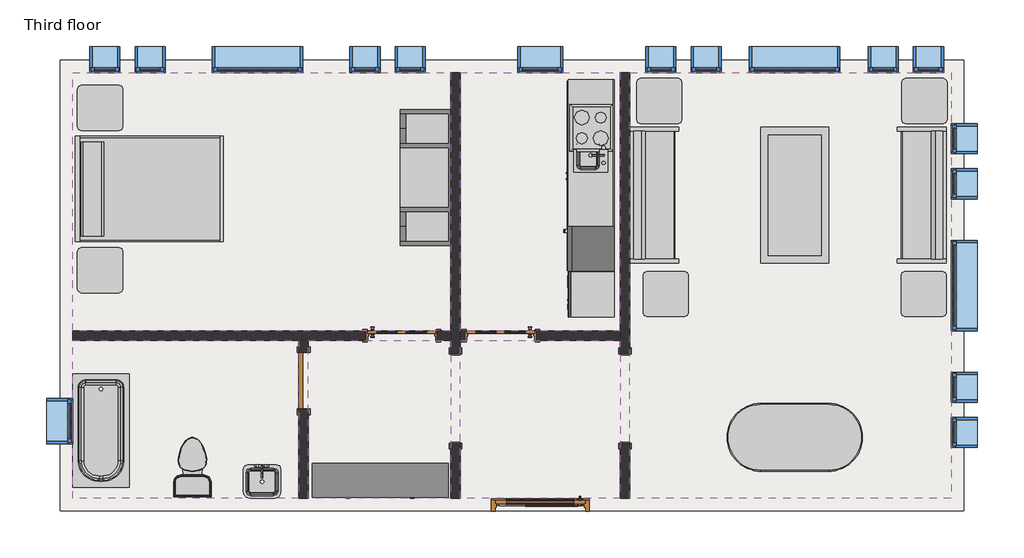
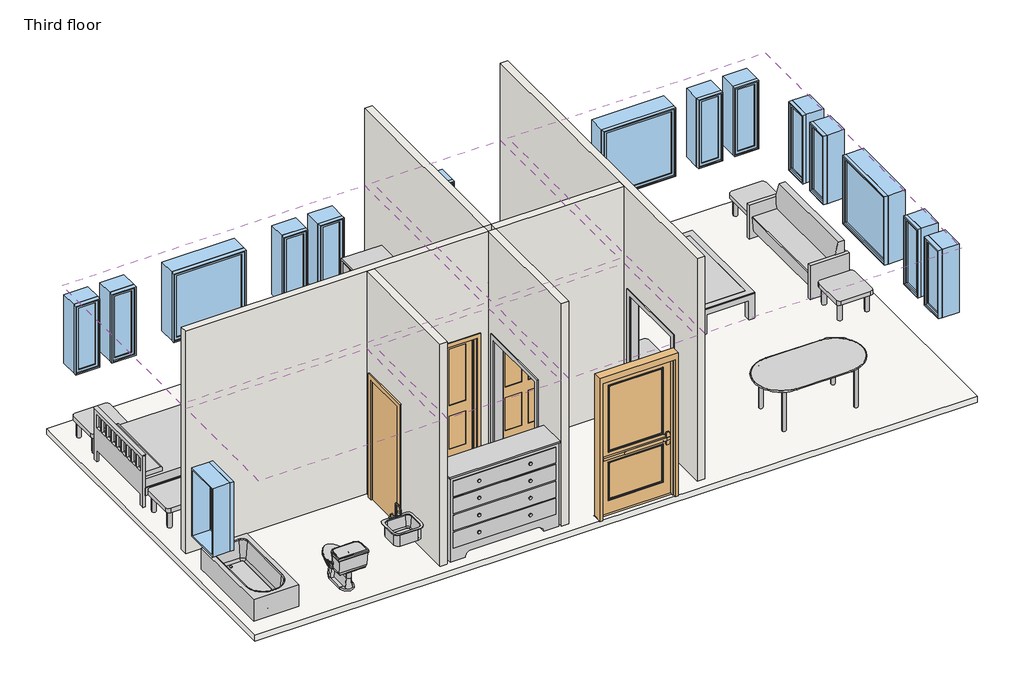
# One storey, incomplete: 17 windows, 14 furniture elements, 6 coverings, 6 proxies, 4 doors, 4 flow terminals, 4 walls, 1 slab.
"""IFC4 building model written with IfcOpenShell, lengths in millimetres."""

from ifc_helpers import new_model, si_unit, frame, origin, place, context, project, spatial, polyline, outline, extrude, faceted_brep, transform, mapped, element, save
from components import proxy_a6faaae8, proxy_45b28599, proxy_2d72b8be, proxy_f44482cc, proxy_d58c73d0, proxy_c523a7b7, door_734823c0, door_3a280f7b, door_48307b55, door_4d6c7550, flow_terminal_871c2e40, flow_terminal_62a433f7, toilet_domestic_3d_toilet_domestic_3d_f7549cf7, toilet_domestic_3d_toilet_domestic_3d_183bbd19, tub_rectangular_3d_tub_rectangular_3d_c56944d8, furniture_096e7f55, furniture_b11095bc, furniture_7c473f12, furniture_cf0b6580, furniture_a4ffab56, furniture_4aa42607, furniture_cd93a443, furniture_2c34a4f9, furniture_3a588284, furniture_1befe2a2, window_da97879f, window_d61ef850, window_60baf983, window_6eb97611

model = new_model("IFC4")

# Units and contexts
model_context = context("Model", 3, world=origin())
ifc_project = project(units=[si_unit("LENGTHUNIT", "METRE", prefix="MILLI")], contexts=[model_context])

# Site, building, storey
site = spatial("IfcSite", under=ifc_project)
building = spatial("IfcBuilding", under=site)
storey = spatial("IfcBuildingStorey", under=building, Name="Third floor", Elevation=6096.0)

# Proxies
placement = place(None, origin())
proxy_shape = proxy_a6faaae8(model_context)
element("IfcBuildingElementProxy", 1, Name="Cook Top-4 Unit2 : 22\" x 20\"", ObjectType="Cook Top-4 Unit2 : 22\" x 20\"", at=placement, inside=storey, context=model_context, shape_type="MappedRepresentation", body=[
    mapped(proxy_shape, transform((-9031.7273953, 6866.0370415, 6097.7), x_axis=(0.0, 1.0, 0.0), y_axis=(-1.0, 0.0, 0.0), z_axis=(0.0, 0.0, 1.0))),
])
proxy_2_shape = proxy_45b28599(model_context)
element("IfcBuildingElementProxy", 2, Name="Dishwasher : 24\" x 24\" x 34\"", ObjectType="Dishwasher : 24\" x 24\" x 34\"", at=placement, inside=storey, context=model_context, shape_type="MappedRepresentation", body=[
    mapped(proxy_2_shape, transform((-9291.8269601, 5000.45451, 6096.0), x_axis=(0.0, -1.0, 0.0), y_axis=(1.0, 0.0, 0.0), z_axis=(0.0, 0.0, 1.0))),
])
proxy_3_shape = proxy_2d72b8be(model_context)
element("IfcBuildingElementProxy", 3, Name="Kitchenette - Medium : 8'6\"", ObjectType="Kitchenette - Medium : 8'6\"", at=placement, inside=storey, context=model_context, shape_type="MappedRepresentation", body=[
    mapped(proxy_3_shape, transform((-8720.5773953, 6237.0747464, 6096.0), x_axis=(0.0, -1.0, 0.0), y_axis=(1.0, 0.0, 0.0), z_axis=(0.0, 0.0, 1.0))),
])
proxy_4_shape = proxy_f44482cc(model_context)
element("IfcBuildingElementProxy", 4, Name="Passage Opening-Cased : 48\" x 84\"", ObjectType="Passage Opening-Cased : 48\" x 84\"", at=placement, inside=storey, context=model_context, shape_type="MappedRepresentation", body=[
    mapped(proxy_4_shape, transform((-8577.1844712, 3224.0452741, 6096.0), x_axis=(0.0, 1.0, 0.0), y_axis=(-1.0, 0.0, 0.0), z_axis=(0.0, 0.0, 1.0))),
])
proxy_5_shape = proxy_d58c73d0(model_context)
element("IfcBuildingElementProxy", 5, Name="Passage Opening-Cased : 48\" x 84\"", ObjectType="Passage Opening-Cased : 48\" x 84\"", at=placement, inside=storey, context=model_context, shape_type="MappedRepresentation", body=[
    mapped(proxy_5_shape, transform((-10863.1844712, 3224.0452741, 6096.0), x_axis=(0.0, 1.0, 0.0), y_axis=(-1.0, 0.0, 0.0), z_axis=(0.0, 0.0, 1.0))),
])
proxy_6_shape = proxy_c523a7b7(model_context)
element("IfcBuildingElementProxy", 6, Name="Refrigerator : 24\" x 25\" LH", ObjectType="Refrigerator : 24\" x 25\" LH", at=placement, inside=storey, context=model_context, shape_type="MappedRepresentation", body=[
    mapped(proxy_6_shape, transform((-9020.2263668, 5234.0870415, 6096.0), x_axis=(0.0, -1.0, 0.0), y_axis=(1.0, 0.0, 0.0), z_axis=(0.0, 0.0, 1.0))),
])

# Coverings
element("IfcCovering", 7, ObjectType="GWB on Mtl. Stud", at=placement, inside=storey, context=model_context, shape_type="SweptSolid", body=[
    extrude(outline(polyline([(-16020.9719712, 7611.6441174), (-10926.6844712, 7611.6441174), (-10926.6844712, 4128.6691174), (-16020.9719712, 4128.6691174), (-16020.9719712, 7611.6441174)])), frame((0.0, 0.0, 8686.8), z_axis=(0.0, 0.0, 1.0), x_axis=(1.0, 0.0, 0.0)), (0.0, 0.0, 1.0), 107.95),
])
element("IfcCovering", 8, ObjectType="GWB on Mtl. Stud", at=placement, inside=storey, context=model_context, shape_type="SweptSolid", body=[
    extrude(outline(polyline([(-10799.6844712, 4128.6691174), (-10799.6844712, 7611.6441174), (-8640.6844712, 7611.6441174), (-8640.6844712, 4128.6691174), (-10799.6844712, 4128.6691174)])), frame((0.0, 0.0, 8686.8), z_axis=(0.0, 0.0, 1.0), x_axis=(1.0, 0.0, 0.0)), (0.0, 0.0, 1.0), 107.95),
])
element("IfcCovering", 9, ObjectType="GWB on Mtl. Stud", at=placement, inside=storey, context=model_context, shape_type="SweptSolid", body=[
    extrude(outline(polyline([(-8513.6844712, 1868.0691174), (-8513.6844712, 7611.6441174), (-4181.3969712, 7611.6441174), (-4181.3969712, 1868.0691174), (-8513.6844712, 1868.0691174)])), frame((0.0, 0.0, 8686.8), z_axis=(0.0, 0.0, 1.0), x_axis=(1.0, 0.0, 0.0)), (0.0, 0.0, 1.0), 107.95),
])
element("IfcCovering", 10, ObjectType="GWB on Mtl. Stud", at=placement, inside=storey, context=model_context, shape_type="SweptSolid", body=[
    extrude(outline(polyline([(-8640.6844712, 1868.0691174), (-10799.6844712, 1868.0691174), (-10799.6844712, 4001.6691174), (-8640.6844712, 4001.6691174), (-8640.6844712, 1868.0691174)])), frame((0.0, 0.0, 8686.8), z_axis=(0.0, 0.0, 1.0), x_axis=(1.0, 0.0, 0.0)), (0.0, 0.0, 1.0), 107.95),
])
element("IfcCovering", 11, ObjectType="GWB on Mtl. Stud", at=placement, inside=storey, context=model_context, shape_type="SweptSolid", body=[
    extrude(outline(polyline([(-10926.6844712, 1868.0691174), (-12845.9719712, 1868.0691174), (-12845.9719712, 4001.6691174), (-10926.6844712, 4001.6691174), (-10926.6844712, 1868.0691174)])), frame((0.0, 0.0, 8686.8), z_axis=(0.0, 0.0, 1.0), x_axis=(1.0, 0.0, 0.0)), (0.0, 0.0, 1.0), 107.95),
])
element("IfcCovering", 12, ObjectType="GWB on Mtl. Stud", at=placement, inside=storey, context=model_context, shape_type="SweptSolid", body=[
    extrude(outline(polyline([(-12972.9719712, 4001.6691174), (-12972.9719712, 1868.0691174), (-16020.9719712, 1868.0691174), (-16020.9719712, 4001.6691174), (-12972.9719712, 4001.6691174)])), frame((0.0, 0.0, 8686.8), z_axis=(0.0, 0.0, 1.0), x_axis=(1.0, 0.0, 0.0)), (0.0, 0.0, 1.0), 107.95),
])

# Doors
door_shape = door_734823c0(model_context)
element("IfcDoor", 13, ObjectType="Door-Exterior-Single-Two_Lite : 48\" x 96\"", at=placement, inside=storey, context=model_context, shape_type="MappedRepresentation", body=[
    mapped(door_shape, transform((-9720.1844712, 1685.5066174, 6096.0), x_axis=(-1.0, 0.0, 0.0), y_axis=(0.0, -1.0, 0.0), z_axis=(0.0, 0.0, 1.0))),
])
door_2_shape = door_3a280f7b(model_context)
element("IfcDoor", 14, ObjectType="Door-Interior-Single-4_Panel-Wood : 36\" x 84\"", at=placement, inside=storey, context=model_context, shape_type="MappedRepresentation", body=[
    mapped(door_2_shape, transform((-10253.5844712, 4068.3441174, 6096.0), x_axis=(-1.0, 0.0, 0.0), y_axis=(0.0, -1.0, 0.0), z_axis=(0.0, 0.0, 1.0))),
])
door_3_shape = door_48307b55(model_context)
element("IfcDoor", 15, ObjectType="Door-Interior-Single-4_Panel-Wood : 36\" x 84\"", at=placement, inside=storey, context=model_context, shape_type="MappedRepresentation", body=[
    mapped(door_3_shape, transform((-11588.6719712, 4068.3441174, 6096.0), x_axis=(1.0, 0.0, 0.0), y_axis=(0.0, 1.0, 0.0), z_axis=(0.0, 0.0, 1.0))),
])
door_4_shape = door_4d6c7550(model_context)
element("IfcDoor", 16, ObjectType="Single-Flush : 30\" x 84\"", at=placement, inside=storey, context=model_context, shape_type="MappedRepresentation", body=[
    mapped(door_4_shape, transform((-12909.4719712, 3455.5691174, 6096.0), x_axis=(0.0, 1.0, 0.0), y_axis=(-1.0, 0.0, 0.0), z_axis=(0.0, 0.0, 1.0))),
])

# Flow terminals
flow_terminal_shape = flow_terminal_871c2e40(model_context)
element("IfcFlowTerminal", 17, ObjectType="Sink Kitchen-Island : 18\" x 18\"", at=placement, inside=storey, context=model_context, shape_type="MappedRepresentation", body=[
    mapped(flow_terminal_shape, transform((-9040.4227964, 6513.4262821, 6083.3), x_axis=(0.0, -1.0, 0.0), y_axis=(1.0, 0.0, 0.0), z_axis=(0.0, 0.0, 1.0))),
])
flow_terminal_2_shape = flow_terminal_62a433f7(model_context)
element("IfcFlowTerminal", 18, ObjectType="Sink Vanity-Square : 20\" x 18\"", at=placement, inside=storey, context=model_context, shape_type="MappedRepresentation", body=[
    mapped(flow_terminal_2_shape, transform((-13483.9612118, 2145.1237163, 6096.0), x_axis=(1.0, 0.0, 0.0), y_axis=(0.0, 1.0, 0.0), z_axis=(0.0, 0.0, 1.0))),
])
toilet_domestic_3d_toilet_domestic_3d_shape = toilet_domestic_3d_toilet_domestic_3d_f7549cf7(model_context)
toilet_domestic_3d_toilet_domestic_3d_2_shape = toilet_domestic_3d_toilet_domestic_3d_183bbd19(model_context)
element("IfcFlowTerminal", 19, ObjectType="Toilet-Domestic-3D : Toilet-Domestic-3D", at=placement, inside=storey, context=model_context, shape_type="MappedRepresentation", body=[
    mapped(toilet_domestic_3d_toilet_domestic_3d_shape, transform((-14408.0719712, 2388.7691174, 6096.0), x_axis=(-1.0, 0.0, 0.0), y_axis=(0.0, -1.0, 0.0), z_axis=(0.0, 0.0, 1.0))),
    mapped(toilet_domestic_3d_toilet_domestic_3d_2_shape, transform((-14408.0719712, 2388.7691174, 6096.0), x_axis=(-1.0, 0.0, 0.0), y_axis=(0.0, -1.0, 0.0), z_axis=(0.0, 0.0, 1.0))),
])
tub_rectangular_3d_tub_rectangular_3d_shape = tub_rectangular_3d_tub_rectangular_3d_c56944d8(model_context)
element("IfcFlowTerminal", 20, ObjectType="Tub-Rectangular-3D : Tub-Rectangular-3D", at=placement, inside=storey, context=model_context, shape_type="MappedRepresentation", body=[
    mapped(tub_rectangular_3d_tub_rectangular_3d_shape, transform((-16197.1844712, 2435.4536487, 6096.0), x_axis=(0.0, -1.0, 0.0), y_axis=(1.0, 0.0, 0.0), z_axis=(0.0, 0.0, 1.0))),
])

# Furniture
furniture_shape = furniture_096e7f55(model_context)
element("IfcFurniture", 21, ObjectType="Bed-Shaker : Double 56\" x 78\"", at=placement, inside=storey, context=model_context, shape_type="MappedRepresentation", body=[
    mapped(furniture_shape, transform((-15975.8112951, 6061.1004868, 6096.0), x_axis=(0.0, 1.0, 0.0), y_axis=(-1.0, 0.0, 0.0), z_axis=(0.0, 0.0, 1.0))),
])
furniture_2_shape = furniture_b11095bc(model_context)
element("IfcFurniture", 22, ObjectType="Counter Top w Sink Hole : 24\" Depth", at=placement, inside=storey, context=model_context, shape_type="MappedRepresentation", body=[
    mapped(furniture_2_shape, transform((-8720.5773953, 6313.2747464, 6083.3), x_axis=(0.0, -1.0, 0.0), y_axis=(1.0, 0.0, 0.0), z_axis=(0.0, 0.0, 1.0))),
])
furniture_3_shape = furniture_7c473f12(model_context)
element("IfcFurniture", 23, ObjectType="Dresser : 72\" x 60\" x 18\"", at=placement, inside=storey, context=model_context, shape_type="MappedRepresentation", body=[
    mapped(furniture_3_shape, transform((-11608.4037114, 2478.8820715, 6096.0), x_axis=(1.0, 0.0, 0.0), y_axis=(0.0, 1.0, 0.0), z_axis=(0.0, 0.0, 1.0))),
])
furniture_4_shape = furniture_cf0b6580(model_context)
element("IfcFurniture", 24, ObjectType="Entertainment Center : 72\" x 72\" x 24\"", at=placement, inside=storey, context=model_context, shape_type="MappedRepresentation", body=[
    mapped(furniture_4_shape, transform((-10825.0844712, 6196.8069525, 6096.0), x_axis=(0.0, -1.0, 0.0), y_axis=(1.0, 0.0, 0.0), z_axis=(0.0, 0.0, 1.0))),
])
furniture_5_shape = furniture_a4ffab56(model_context)
element("IfcFurniture", 25, ObjectType="Sofa : 72\"", at=placement, inside=storey, context=model_context, shape_type="MappedRepresentation", body=[
    mapped(furniture_5_shape, transform((-8037.3303728, 5888.6861256, 6096.0), x_axis=(0.0, 1.0, 0.0), y_axis=(-1.0, 0.0, 0.0), z_axis=(0.0, 0.0, 1.0))),
])
furniture_6_shape = furniture_4aa42607(model_context)
element("IfcFurniture", 26, ObjectType="Sofa : 72\"", at=placement, inside=storey, context=model_context, shape_type="MappedRepresentation", body=[
    mapped(furniture_6_shape, transform((-4722.8385696, 5888.6861256, 6096.0), x_axis=(0.0, 1.0, 0.0), y_axis=(-1.0, 0.0, 0.0), z_axis=(0.0, 0.0, 1.0))),
])
furniture_7_shape = furniture_cd93a443(model_context)
element("IfcFurniture", 27, ObjectType="Table-Coffee : 36\" x 72\" x 18\"", at=placement, inside=storey, context=model_context, shape_type="MappedRepresentation", body=[
    mapped(furniture_7_shape, transform((-6386.395549, 5977.3223841, 6096.0), x_axis=(0.0, -1.0, 0.0), y_axis=(1.0, 0.0, 0.0), z_axis=(0.0, 0.0, 1.0))),
])
furniture_8_shape = furniture_2c34a4f9(model_context)
element("IfcFurniture", 28, ObjectType="Table-Dining Oval : 36\" x 72\"", at=placement, inside=storey, context=model_context, shape_type="MappedRepresentation", body=[
    mapped(furniture_8_shape, transform((-5889.3647991, 3051.6674781, 6096.0), x_axis=(1.0, 0.0, 0.0), y_axis=(0.0, 1.0, 0.0), z_axis=(0.0, 0.0, 1.0))),
])
furniture_9_shape = furniture_3a588284(model_context)
element("IfcFurniture", 29, ObjectType="Table-End : 24\" x 24\"", at=placement, inside=storey, context=model_context, shape_type="MappedRepresentation", body=[
    mapped(furniture_9_shape, transform((-8424.0054177, 7076.6566174, 6096.0), x_axis=(1.0, 0.0, 0.0), y_axis=(0.0, 1.0, 0.0), z_axis=(0.0, 0.0, 1.0))),
])
element("IfcFurniture", 30, ObjectType="Table-End : 24\" x 24\"", at=placement, inside=storey, context=model_context, shape_type="MappedRepresentation", body=[
    mapped(furniture_9_shape, transform((-8338.5433691, 4473.0178252, 6096.0), x_axis=(1.0, 0.0, 0.0), y_axis=(0.0, 1.0, 0.0), z_axis=(0.0, 0.0, 1.0))),
])
element("IfcFurniture", 31, ObjectType="Table-End : 24\" x 24\"", at=placement, inside=storey, context=model_context, shape_type="MappedRepresentation", body=[
    mapped(furniture_9_shape, transform((-15961.2056015, 4795.4191174, 6096.0), x_axis=(1.0, 0.0, 0.0), y_axis=(0.0, 1.0, 0.0), z_axis=(0.0, 0.0, 1.0))),
])
furniture_10_shape = furniture_1befe2a2(model_context)
element("IfcFurniture", 32, ObjectType="Table-End : 24\" x 24\"", at=placement, inside=storey, context=model_context, shape_type="MappedRepresentation", body=[
    mapped(furniture_10_shape, transform((-4234.5635246, 7076.6566174, 6096.0), x_axis=(-1.0, 0.0, 0.0), y_axis=(0.0, -1.0, 0.0), z_axis=(0.0, 0.0, 1.0))),
])
element("IfcFurniture", 33, ObjectType="Table-End : 24\" x 24\"", at=placement, inside=storey, context=model_context, shape_type="MappedRepresentation", body=[
    mapped(furniture_10_shape, transform((-4243.8255733, 4473.0178252, 6096.0), x_axis=(-1.0, 0.0, 0.0), y_axis=(0.0, -1.0, 0.0), z_axis=(0.0, 0.0, 1.0))),
])
element("IfcFurniture", 34, ObjectType="Table-End : 24\" x 24\"", at=placement, inside=storey, context=model_context, shape_type="MappedRepresentation", body=[
    mapped(furniture_10_shape, transform((-15961.2056015, 7288.6818561, 6096.0), x_axis=(1.0, 0.0, 0.0), y_axis=(0.0, 1.0, 0.0), z_axis=(0.0, 0.0, 1.0))),
])

# Slab
element("IfcSlab", 35, ObjectType="LW Concrete on Metal Deck", at=placement, inside=storey, context=model_context, shape_type="SweptSolid", body=[
    extrude(outline(polyline([(-4016.2969712, 7776.7441174), (-4016.2969712, 1702.9691174), (-16186.0719712, 1702.9691174), (-16186.0719712, 7776.7441174), (-4016.2969712, 7776.7441174)])), frame((0.0, 0.0, 5991.225), z_axis=(0.0, 0.0, 1.0), x_axis=(1.0, 0.0, 0.0)), (0.0, 0.0, 1.0), 104.775),
])

# Walls
element("IfcWall", 36, ObjectType="Interior - 5\" Partition (2-hr)", at=placement, inside=storey, context=model_context, shape_type="Brep", body=[
    faceted_brep([(-8640.6844712, 7611.6441174, 6096.0), (-8640.6844712, 4128.6691174, 6096.0), (-8640.6844712, 4001.6691174, 6096.0), (-8640.6844712, 3825.4566174, 6096.0), (-8640.6844712, 3825.4566174, 8229.6), (-8640.6844712, 2606.2566174, 8229.6), (-8640.6844712, 2606.2566174, 6096.0), (-8640.6844712, 1868.0691174, 6096.0), (-8640.6844712, 1868.0691174, 10058.4), (-8640.6844712, 4001.6691174, 10058.4), (-8640.6844712, 4128.6691174, 10058.4), (-8640.6844712, 7611.6441174, 10058.4), (-8513.6844712, 3825.4566174, 8229.6), (-8513.6844712, 3825.4566174, 6096.0), (-8513.6844712, 7611.6441174, 6096.0), (-8513.6844712, 7611.6441174, 10058.4), (-8513.6844712, 1868.0691174, 10058.4), (-8513.6844712, 1868.0691174, 6096.0), (-8513.6844712, 2606.2566174, 6096.0), (-8513.6844712, 2606.2566174, 8229.6)], [[[0, 1, 2, 3, 4, 5, 6, 7, 8, 9, 10, 11]], [[12, 13, 14, 15, 16, 17, 18, 19]], [[18, 17, 7, 6]], [[14, 13, 3, 2, 1, 0]], [[11, 10, 9, 8, 16, 15]], [[6, 5, 19, 18]], [[4, 3, 13, 12]], [[5, 4, 12, 19]], [[0, 11, 15, 14]], [[8, 7, 17, 16]]]),
])
element("IfcWall", 37, ObjectType="Interior - 5\" Partition (2-hr)", at=placement, inside=storey, context=model_context, shape_type="SweptSolid", body=[
    extrude(outline(polyline([(2606.2566174, 8229.6), (2606.2566174, 6096.0), (1868.0691174, 6096.0), (1868.0691174, 10058.4), (4001.6691174, 10058.4), (4001.6691174, 9144.0), (4128.6691174, 9144.0), (4128.6691174, 10058.4), (7611.6441174, 10058.4), (7611.6441174, 6096.0), (4128.6691174, 6096.0), (4128.6691174, 7010.4), (4001.6691174, 7010.4), (4001.6691174, 6096.0), (3825.4566174, 6096.0), (3825.4566174, 8229.6), (2606.2566174, 8229.6)])), frame((-10926.6844712, 0.0, 0.0), z_axis=(1.0, 0.0, 0.0), x_axis=(0.0, 1.0, 0.0)), (0.0, 0.0, 1.0), 127.0),
])
element("IfcWall", 38, ObjectType="Interior - 5\" Partition (2-hr)", at=placement, inside=storey, context=model_context, shape_type="Brep", body=[
    faceted_brep([(-8640.6844712, 4001.6691174, 10058.4), (-10799.6844712, 4001.6691174, 10058.4), (-10799.6844712, 4001.6691174, 9144.0), (-10799.6844712, 4001.6691174, 7010.4), (-10799.6844712, 4001.6691174, 6096.0), (-10736.1844712, 4001.6691174, 6096.0), (-10736.1844712, 4001.6691174, 8255.0), (-9770.9844712, 4001.6691174, 8255.0), (-9770.9844712, 4001.6691174, 6096.0), (-8640.6844712, 4001.6691174, 6096.0), (-10799.6844712, 4128.6691174, 10058.4), (-8640.6844712, 4128.6691174, 10058.4), (-8640.6844712, 4128.6691174, 6096.0), (-9770.9844712, 4128.6691174, 6096.0), (-9770.9844712, 4128.6691174, 8255.0), (-10736.1844712, 4128.6691174, 8255.0), (-10736.1844712, 4128.6691174, 6096.0), (-10799.6844712, 4128.6691174, 6096.0), (-10799.6844712, 4128.6691174, 7010.4), (-10799.6844712, 4128.6691174, 9144.0)], [[[0, 1, 2, 3, 4, 5, 6, 7, 8, 9]], [[10, 11, 12, 13, 14, 15, 16, 17, 18, 19]], [[12, 9, 8, 13]], [[4, 17, 16, 5]], [[0, 11, 10, 1]], [[17, 4, 3, 2, 1, 10, 19, 18]], [[6, 5, 16, 15]], [[7, 6, 15, 14]], [[8, 7, 14, 13]], [[9, 12, 11, 0]]]),
    faceted_brep([(-10926.6844712, 4001.6691174, 10058.4), (-12845.9719712, 4001.6691174, 10058.4), (-12972.9719712, 4001.6691174, 10058.4), (-16020.9719712, 4001.6691174, 10058.4), (-16020.9719712, 4001.6691174, 6096.0), (-12972.9719712, 4001.6691174, 6096.0), (-12845.9719712, 4001.6691174, 6096.0), (-12071.2719712, 4001.6691174, 6096.0), (-12071.2719712, 4001.6691174, 8255.0), (-11106.0719712, 4001.6691174, 8255.0), (-11106.0719712, 4001.6691174, 6096.0), (-10926.6844712, 4001.6691174, 6096.0), (-10926.6844712, 4001.6691174, 7010.4), (-10926.6844712, 4001.6691174, 9144.0), (-16020.9719712, 4128.6691174, 10058.4), (-10926.6844712, 4128.6691174, 10058.4), (-10926.6844712, 4128.6691174, 9144.0), (-10926.6844712, 4128.6691174, 7010.4), (-10926.6844712, 4128.6691174, 6096.0), (-11106.0719712, 4128.6691174, 6096.0), (-11106.0719712, 4128.6691174, 8255.0), (-12071.2719712, 4128.6691174, 8255.0), (-12071.2719712, 4128.6691174, 6096.0), (-16020.9719712, 4128.6691174, 6096.0)], [[[0, 1, 2, 3, 4, 5, 6, 7, 8, 9, 10, 11, 12, 13]], [[14, 15, 16, 17, 18, 19, 20, 21, 22, 23]], [[18, 11, 10, 19]], [[7, 6, 5, 4, 23, 22]], [[3, 2, 1, 0, 15, 14]], [[11, 18, 17, 16, 15, 0, 13, 12]], [[9, 20, 19, 10]], [[20, 9, 8, 21]], [[21, 8, 7, 22]], [[4, 3, 14, 23]]]),
])
element("IfcWall", 39, ObjectType="Interior - 5\" Partition (2-hr)", at=placement, inside=storey, context=model_context, shape_type="SweptSolid", body=[
    extrude(outline(polyline([(4001.6691174, 6096.0), (3836.5691174, 6096.0), (3836.5691174, 8229.6), (3074.5691174, 8229.6), (3074.5691174, 6096.0), (1868.0691174, 6096.0), (1868.0691174, 10058.4), (4001.6691174, 10058.4), (4001.6691174, 6096.0)])), frame((-12972.9719712, 0.0, 0.0), z_axis=(1.0, 0.0, 0.0), x_axis=(0.0, 1.0, 0.0)), (0.0, 0.0, 1.0), 127.0),
])

# Windows
window_shape = window_da97879f(model_context)
element("IfcWindow", 40, ObjectType="Fixed : 16\" x 48\"", at=placement, inside=storey, context=model_context, shape_type="MappedRepresentation", body=[
    mapped(window_shape, transform((-15625.6844712, 7787.8566174, 6096.0), x_axis=(-1.0, 0.0, 0.0), y_axis=(0.0, -1.0, 0.0), z_axis=(0.0, 0.0, 1.0))),
])
element("IfcWindow", 41, ObjectType="Fixed : 16\" x 48\"", at=placement, inside=storey, context=model_context, shape_type="MappedRepresentation", body=[
    mapped(window_shape, transform((-15016.0844712, 7787.8566174, 6096.0), x_axis=(-1.0, 0.0, 0.0), y_axis=(0.0, -1.0, 0.0), z_axis=(0.0, 0.0, 1.0))),
])
element("IfcWindow", 42, ObjectType="Fixed : 16\" x 48\"", at=placement, inside=storey, context=model_context, shape_type="MappedRepresentation", body=[
    mapped(window_shape, transform((-8132.6844712, 7787.8566174, 6096.0), x_axis=(-1.0, 0.0, 0.0), y_axis=(0.0, -1.0, 0.0), z_axis=(0.0, 0.0, 1.0))),
])
element("IfcWindow", 43, ObjectType="Fixed : 16\" x 48\"", at=placement, inside=storey, context=model_context, shape_type="MappedRepresentation", body=[
    mapped(window_shape, transform((-7523.0844712, 7787.8566174, 6096.0), x_axis=(-1.0, 0.0, 0.0), y_axis=(0.0, -1.0, 0.0), z_axis=(0.0, 0.0, 1.0))),
])
element("IfcWindow", 44, ObjectType="Fixed : 16\" x 48\"", at=placement, inside=storey, context=model_context, shape_type="MappedRepresentation", body=[
    mapped(window_shape, transform((-4005.1844712, 6759.1566174, 6096.0), x_axis=(0.0, 1.0, 0.0), y_axis=(-1.0, 0.0, 0.0), z_axis=(0.0, 0.0, 1.0))),
])
element("IfcWindow", 45, ObjectType="Fixed : 16\" x 48\"", at=placement, inside=storey, context=model_context, shape_type="MappedRepresentation", body=[
    mapped(window_shape, transform((-4005.1844712, 6149.5566174, 6096.0), x_axis=(0.0, 1.0, 0.0), y_axis=(-1.0, 0.0, 0.0), z_axis=(0.0, 0.0, 1.0))),
])
window_2_shape = window_d61ef850(model_context)
element("IfcWindow", 46, ObjectType="Fixed : 16\" x 48\"", at=placement, inside=storey, context=model_context, shape_type="MappedRepresentation", body=[
    mapped(window_2_shape, transform((-11434.6844712, 7787.8566174, 6096.0), x_axis=(1.0, 0.0, 0.0), y_axis=(0.0, 1.0, 0.0), z_axis=(0.0, 0.0, 1.0))),
])
element("IfcWindow", 47, ObjectType="Fixed : 16\" x 48\"", at=placement, inside=storey, context=model_context, shape_type="MappedRepresentation", body=[
    mapped(window_2_shape, transform((-12044.2844712, 7787.8566174, 6096.0), x_axis=(1.0, 0.0, 0.0), y_axis=(0.0, 1.0, 0.0), z_axis=(0.0, 0.0, 1.0))),
])
element("IfcWindow", 48, ObjectType="Fixed : 16\" x 48\"", at=placement, inside=storey, context=model_context, shape_type="MappedRepresentation", body=[
    mapped(window_2_shape, transform((-4449.6844712, 7787.8566174, 6096.0), x_axis=(1.0, 0.0, 0.0), y_axis=(0.0, 1.0, 0.0), z_axis=(0.0, 0.0, 1.0))),
])
element("IfcWindow", 49, ObjectType="Fixed : 16\" x 48\"", at=placement, inside=storey, context=model_context, shape_type="MappedRepresentation", body=[
    mapped(window_2_shape, transform((-5059.2844712, 7787.8566174, 6096.0), x_axis=(1.0, 0.0, 0.0), y_axis=(0.0, 1.0, 0.0), z_axis=(0.0, 0.0, 1.0))),
])
element("IfcWindow", 50, ObjectType="Fixed : 16\" x 48\"", at=placement, inside=storey, context=model_context, shape_type="MappedRepresentation", body=[
    mapped(window_2_shape, transform((-4005.1844712, 2720.5566174, 6096.0), x_axis=(0.0, -1.0, 0.0), y_axis=(1.0, 0.0, 0.0), z_axis=(0.0, 0.0, 1.0))),
])
element("IfcWindow", 51, ObjectType="Fixed : 16\" x 48\"", at=placement, inside=storey, context=model_context, shape_type="MappedRepresentation", body=[
    mapped(window_2_shape, transform((-4005.1844712, 3330.1566174, 6096.0), x_axis=(0.0, -1.0, 0.0), y_axis=(1.0, 0.0, 0.0), z_axis=(0.0, 0.0, 1.0))),
])
window_3_shape = window_60baf983(model_context)
element("IfcWindow", 52, ObjectType="Fixed : 24\" x 48\"", at=placement, inside=storey, context=model_context, shape_type="MappedRepresentation", body=[
    mapped(window_3_shape, transform((-9758.2844712, 7787.8566174, 6096.0), x_axis=(-1.0, 0.0, 0.0), y_axis=(0.0, -1.0, 0.0), z_axis=(0.0, 0.0, 1.0))),
])
element("IfcWindow", 53, ObjectType="Fixed : 24\" x 48\"", at=placement, inside=storey, context=model_context, shape_type="MappedRepresentation", body=[
    mapped(window_3_shape, transform((-16197.1844712, 2872.9566174, 6096.0), x_axis=(0.0, -1.0, 0.0), y_axis=(1.0, 0.0, 0.0), z_axis=(0.0, 0.0, 1.0))),
])
window_4_shape = window_6eb97611(model_context)
element("IfcWindow", 54, ObjectType="Fixed : 48\" x 48\"", at=placement, inside=storey, context=model_context, shape_type="MappedRepresentation", body=[
    mapped(window_4_shape, transform((-13568.2844712, 7787.8566174, 6096.0), x_axis=(-1.0, 0.0, 0.0), y_axis=(0.0, -1.0, 0.0), z_axis=(0.0, 0.0, 1.0))),
])
element("IfcWindow", 55, ObjectType="Fixed : 48\" x 48\"", at=placement, inside=storey, context=model_context, shape_type="MappedRepresentation", body=[
    mapped(window_4_shape, transform((-6329.2844712, 7787.8566174, 6096.0), x_axis=(-1.0, 0.0, 0.0), y_axis=(0.0, -1.0, 0.0), z_axis=(0.0, 0.0, 1.0))),
])
element("IfcWindow", 56, ObjectType="Fixed : 48\" x 48\"", at=placement, inside=storey, context=model_context, shape_type="MappedRepresentation", body=[
    mapped(window_4_shape, transform((-4005.1844712, 4777.9566174, 6096.0), x_axis=(0.0, 1.0, 0.0), y_axis=(-1.0, 0.0, 0.0), z_axis=(0.0, 0.0, 1.0))),
])

save(model, "model.ifc")
